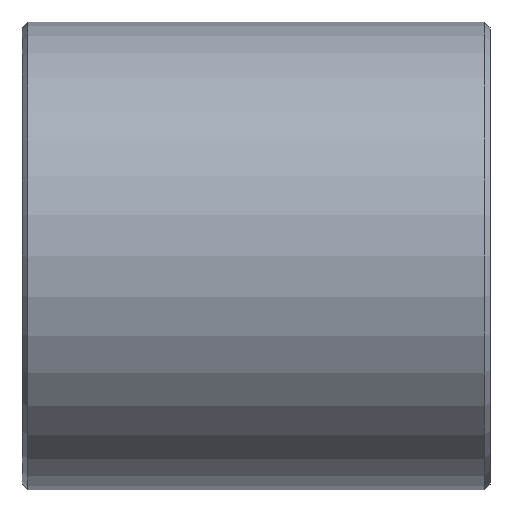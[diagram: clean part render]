
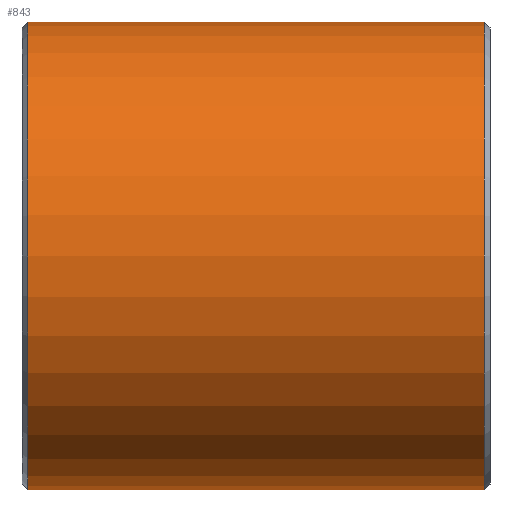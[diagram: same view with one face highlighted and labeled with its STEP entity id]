
A CAD part, left-side view. The second image highlights one B-rep face of the part: STEP entity #843.
In plain terms, the highlighted cylindrical face has radius 20 mm (diameter 40 mm), a partial arc.
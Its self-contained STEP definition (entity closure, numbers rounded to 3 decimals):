
#2 = AXIS2_PLACEMENT_3D ( 'NONE', #636, #1076, #439 ) ;
#16 = DIRECTION ( 'NONE',  ( 0., 1., 0. ) ) ;
#25 = AXIS2_PLACEMENT_3D ( 'NONE', #44, #1007, #1310 ) ;
#44 = CARTESIAN_POINT ( 'NONE',  ( 0., 65.513, 0. ) ) ;
#49 = CYLINDRICAL_SURFACE ( 'NONE', #25, 20. ) ;
#60 = ORIENTED_EDGE ( 'NONE', *, *, #137, .F. ) ;
#137 = EDGE_CURVE ( 'NONE', #491, #1093, #874, .T. ) ;
#184 = EDGE_CURVE ( 'NONE', #832, #315, #590, .T. ) ;
#212 = DIRECTION ( 'NONE',  ( 0., 1., 0. ) ) ;
#224 = CIRCLE ( 'NONE', #2, 20. ) ;
#251 = CARTESIAN_POINT ( 'NONE',  ( 0., 65.513, -20. ) ) ;
#315 = VERTEX_POINT ( 'NONE', #318 ) ;
#318 = CARTESIAN_POINT ( 'NONE',  ( 0., 1., 20. ) ) ;
#363 = EDGE_CURVE ( 'NONE', #315, #1093, #1017, .T. ) ;
#381 = ORIENTED_EDGE ( 'NONE', *, *, #652, .T. ) ;
#391 = VECTOR ( 'NONE', #212, 1000. ) ;
#405 = CARTESIAN_POINT ( 'NONE',  ( 0., 1., -20. ) ) ;
#439 = DIRECTION ( 'NONE',  ( 0., 0., -1. ) ) ;
#491 = VERTEX_POINT ( 'NONE', #1091 ) ;
#502 = ORIENTED_EDGE ( 'NONE', *, *, #363, .T. ) ;
#515 = ORIENTED_EDGE ( 'NONE', *, *, #184, .T. ) ;
#590 = LINE ( 'NONE', #838, #391 ) ;
#636 = CARTESIAN_POINT ( 'NONE',  ( 0., -38., 0. ) ) ;
#652 = EDGE_CURVE ( 'NONE', #491, #832, #224, .T. ) ;
#677 = CARTESIAN_POINT ( 'NONE',  ( 0., -38., 20. ) ) ;
#729 = DIRECTION ( 'NONE',  ( 0., -1., 0. ) ) ;
#810 = FACE_OUTER_BOUND ( 'NONE', #1149, .T. ) ;
#832 = VERTEX_POINT ( 'NONE', #677 ) ;
#838 = CARTESIAN_POINT ( 'NONE',  ( 0., 65.513, 20. ) ) ;
#842 = DIRECTION ( 'NONE',  ( 0., 0., 1. ) ) ;
#843 = ADVANCED_FACE ( 'NONE', ( #810 ), #49, .T. ) ;
#861 = CARTESIAN_POINT ( 'NONE',  ( 0., 1., 0. ) ) ;
#874 = LINE ( 'NONE', #251, #1153 ) ;
#886 = AXIS2_PLACEMENT_3D ( 'NONE', #861, #729, #842 ) ;
#1007 = DIRECTION ( 'NONE',  ( 0., 1., 0. ) ) ;
#1017 = CIRCLE ( 'NONE', #886, 20. ) ;
#1076 = DIRECTION ( 'NONE',  ( 0., 1., 0. ) ) ;
#1091 = CARTESIAN_POINT ( 'NONE',  ( 0., -38., -20. ) ) ;
#1093 = VERTEX_POINT ( 'NONE', #405 ) ;
#1149 = EDGE_LOOP ( 'NONE', ( #60, #381, #515, #502 ) ) ;
#1153 = VECTOR ( 'NONE', #16, 1000. ) ;
#1310 = DIRECTION ( 'NONE',  ( 0., 0., 1. ) ) ;
